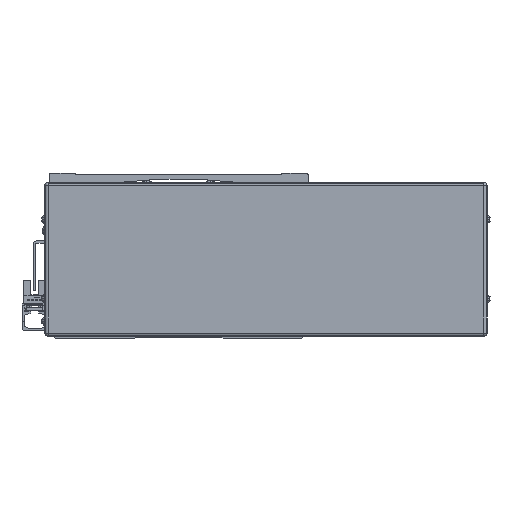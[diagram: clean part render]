
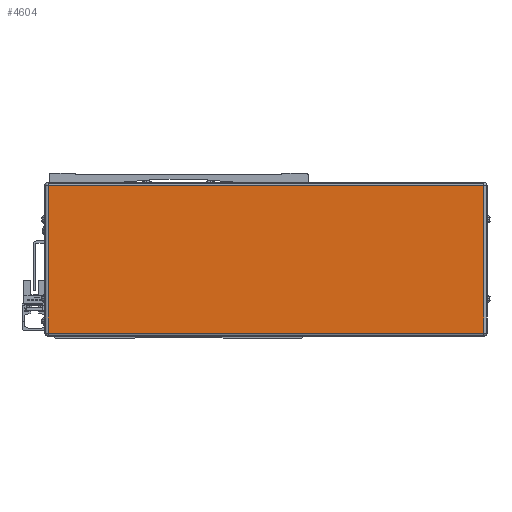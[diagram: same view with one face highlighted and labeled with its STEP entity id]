
A CAD part, front view. The second image highlights one B-rep face of the part: STEP entity #4604.
In plain terms, the highlighted planar face has unit normal (0, -1, 0).
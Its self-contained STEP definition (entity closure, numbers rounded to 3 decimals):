
#4604=ADVANCED_FACE('',(#10978),#10979,.T.);
#10978=FACE_OUTER_BOUND('',#20485,.T.);
#10979=PLANE('',#20486);
#20485=EDGE_LOOP('',(#34611,#34612,#34613,#34614));
#20486=AXIS2_PLACEMENT_3D('',#34615,#34616,#34617);
#34611=ORIENTED_EDGE('',*,*,#56344,.F.);
#34612=ORIENTED_EDGE('',*,*,#55673,.F.);
#34613=ORIENTED_EDGE('',*,*,#56345,.F.);
#34614=ORIENTED_EDGE('',*,*,#56346,.F.);
#34615=CARTESIAN_POINT('',(-545.,-372.778,-2.));
#34616=DIRECTION('',(0.,-1.0,0.));
#34617=DIRECTION('',(1.0,0.,0.));
#55673=EDGE_CURVE('',#66365,#67802,#67803,.T.);
#56344=EDGE_CURVE('',#67802,#68852,#68853,.T.);
#56345=EDGE_CURVE('',#66540,#66365,#68854,.T.);
#56346=EDGE_CURVE('',#68852,#66540,#68855,.T.);
#66365=VERTEX_POINT('',#82482);
#66540=VERTEX_POINT('',#82754);
#67802=VERTEX_POINT('',#84643);
#67803=LINE('',#84644,#84645);
#68852=VERTEX_POINT('',#86204);
#68853=LINE('',#86205,#86206);
#68854=LINE('',#86207,#86208);
#68855=LINE('',#86209,#86210);
#82482=CARTESIAN_POINT('',(-682.1,-372.778,-48.5));
#82754=CARTESIAN_POINT('',(-407.9,-372.778,-48.5));
#84643=CARTESIAN_POINT('',(-682.1,-372.778,44.5));
#84644=CARTESIAN_POINT('',(-682.1,-372.778,-2.));
#84645=VECTOR('',#101851,10.0);
#86204=CARTESIAN_POINT('',(-407.9,-372.778,44.5));
#86205=CARTESIAN_POINT('',(-545.,-372.778,44.5));
#86206=VECTOR('',#102718,10.0);
#86207=CARTESIAN_POINT('',(-545.,-372.778,-48.5));
#86208=VECTOR('',#102719,10.0);
#86209=CARTESIAN_POINT('',(-407.9,-372.778,-2.));
#86210=VECTOR('',#102720,10.0);
#101851=DIRECTION('',(0.,0.,1.0));
#102718=DIRECTION('',(1.0,0.,0.));
#102719=DIRECTION('',(-1.0,0.,0.));
#102720=DIRECTION('',(0.,0.,-1.0));
